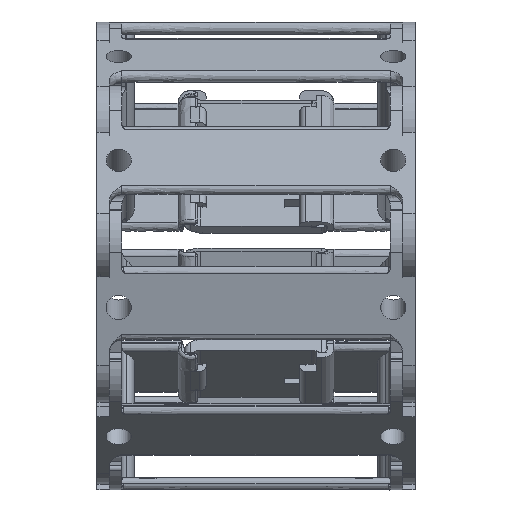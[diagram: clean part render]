
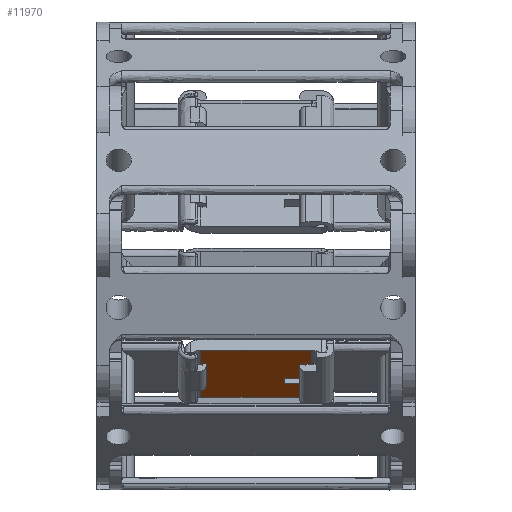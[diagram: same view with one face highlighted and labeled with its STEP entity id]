
A CAD part, front view. The second image highlights one B-rep face of the part: STEP entity #11970.
In plain terms, the highlighted planar face has unit normal (0, -0.628, -0.778) as drawn and (0, -1, 0) by its records, which use the part's own axes.
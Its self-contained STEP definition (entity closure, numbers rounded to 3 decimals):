
#10640=CARTESIAN_POINT('',(-41.33,-0.5,8.5));
#10641=VERTEX_POINT('',#10640);
#10649=CARTESIAN_POINT('',(-41.33,-0.5,12.));
#10650=VERTEX_POINT('',#10649);
#10651=CARTESIAN_POINT('',(-41.33,-0.5,8.5));
#10652=DIRECTION('',(0.0,0.0,1.0));
#10653=VECTOR('',#10652,3.5);
#10654=LINE('',#10651,#10653);
#10655=EDGE_CURVE('',#10641,#10650,#10654,.T.);
#10854=CARTESIAN_POINT('',(-41.,-0.5,8.5));
#10855=VERTEX_POINT('',#10854);
#10862=CARTESIAN_POINT('',(-41.33,-0.5,8.5));
#10863=DIRECTION('',(1.0,0.0,0.0));
#10864=VECTOR('',#10863,0.33);
#10865=LINE('',#10862,#10864);
#10866=EDGE_CURVE('',#10641,#10855,#10865,.T.);
#10880=CARTESIAN_POINT('',(-41.,-0.5,3.5));
#10881=VERTEX_POINT('',#10880);
#10882=CARTESIAN_POINT('',(-41.,-0.5,8.5));
#10883=DIRECTION('',(0.0,0.0,-1.0));
#10884=VECTOR('',#10883,5.);
#10885=LINE('',#10882,#10884);
#10886=EDGE_CURVE('',#10855,#10881,#10885,.T.);
#10920=CARTESIAN_POINT('',(-41.33,-0.5,3.5));
#10921=VERTEX_POINT('',#10920);
#10929=CARTESIAN_POINT('',(-41.,-0.5,3.5));
#10930=DIRECTION('',(-1.0,0.0,0.0));
#10931=VECTOR('',#10930,0.33);
#10932=LINE('',#10929,#10931);
#10933=EDGE_CURVE('',#10881,#10921,#10932,.T.);
#11058=CARTESIAN_POINT('',(-23.658,-0.5,0.0));
#11059=VERTEX_POINT('',#11058);
#11060=CARTESIAN_POINT('',(-23.658,-0.5,3.5));
#11061=VERTEX_POINT('',#11060);
#11062=CARTESIAN_POINT('',(-23.658,-0.5,0.0));
#11063=DIRECTION('',(0.0,0.0,1.0));
#11064=VECTOR('',#11063,3.5);
#11065=LINE('',#11062,#11064);
#11066=EDGE_CURVE('',#11059,#11061,#11065,.T.);
#11138=CARTESIAN_POINT('',(-41.33,-0.5,0.0));
#11139=VERTEX_POINT('',#11138);
#11140=CARTESIAN_POINT('',(-23.658,-0.5,0.0));
#11141=DIRECTION('',(-1.0,0.0,0.0));
#11142=VECTOR('',#11141,17.672);
#11143=LINE('',#11140,#11142);
#11144=EDGE_CURVE('',#11059,#11139,#11143,.T.);
#11262=CARTESIAN_POINT('',(-24.5,-0.5,8.5));
#11263=VERTEX_POINT('',#11262);
#11270=CARTESIAN_POINT('',(-24.5,-0.5,4.8));
#11271=VERTEX_POINT('',#11270);
#11272=CARTESIAN_POINT('',(-24.5,-0.5,4.8));
#11273=DIRECTION('',(0.0,0.0,1.0));
#11274=VECTOR('',#11273,3.7);
#11275=LINE('',#11272,#11274);
#11276=EDGE_CURVE('',#11271,#11263,#11275,.T.);
#11681=CARTESIAN_POINT('',(-23.658,-0.5,8.5));
#11682=VERTEX_POINT('',#11681);
#11683=CARTESIAN_POINT('',(-24.5,-0.5,8.5));
#11684=DIRECTION('',(1.0,0.0,0.0));
#11685=VECTOR('',#11684,0.842);
#11686=LINE('',#11683,#11685);
#11687=EDGE_CURVE('',#11263,#11682,#11686,.T.);
#11711=CARTESIAN_POINT('',(-28.,-0.5,4.8));
#11712=VERTEX_POINT('',#11711);
#11713=CARTESIAN_POINT('',(-28.,-0.5,4.8));
#11714=DIRECTION('',(1.0,0.0,0.0));
#11715=VECTOR('',#11714,3.5);
#11716=LINE('',#11713,#11715);
#11717=EDGE_CURVE('',#11712,#11271,#11716,.T.);
#11745=CARTESIAN_POINT('',(-28.,-0.5,3.5));
#11746=VERTEX_POINT('',#11745);
#11753=CARTESIAN_POINT('',(-23.658,-0.5,3.5));
#11754=DIRECTION('',(-1.0,0.0,0.0));
#11755=VECTOR('',#11754,4.342);
#11756=LINE('',#11753,#11755);
#11757=EDGE_CURVE('',#11061,#11746,#11756,.T.);
#11768=CARTESIAN_POINT('',(-28.,-0.5,3.5));
#11769=DIRECTION('',(0.0,0.0,1.0));
#11770=VECTOR('',#11769,1.3);
#11771=LINE('',#11768,#11770);
#11772=EDGE_CURVE('',#11746,#11712,#11771,.T.);
#11787=CARTESIAN_POINT('',(-23.658,-0.5,12.));
#11788=VERTEX_POINT('',#11787);
#11796=CARTESIAN_POINT('',(-23.658,-0.5,8.5));
#11797=DIRECTION('',(0.0,0.0,1.0));
#11798=VECTOR('',#11797,3.5);
#11799=LINE('',#11796,#11798);
#11800=EDGE_CURVE('',#11682,#11788,#11799,.T.);
#11920=CARTESIAN_POINT('',(-23.658,-0.5,12.));
#11921=DIRECTION('',(-1.0,0.0,0.0));
#11922=VECTOR('',#11921,17.672);
#11923=LINE('',#11920,#11922);
#11924=EDGE_CURVE('',#11788,#10650,#11923,.T.);
#11944=CARTESIAN_POINT('',(-23.658,-0.5,0.0));
#11945=DIRECTION('',(0.0,-1.0,0.0));
#11946=DIRECTION('',(0.0,0.0,-1.0));
#11947=AXIS2_PLACEMENT_3D('',#11944,#11945,#11946);
#11948=PLANE('',#11947);
#11949=ORIENTED_EDGE('',*,*,#10933,.T.);
#11950=CARTESIAN_POINT('',(-41.33,-0.5,0.0));
#11951=DIRECTION('',(0.0,0.0,1.0));
#11952=VECTOR('',#11951,3.5);
#11953=LINE('',#11950,#11952);
#11954=EDGE_CURVE('',#11139,#10921,#11953,.T.);
#11955=ORIENTED_EDGE('',*,*,#11954,.F.);
#11956=ORIENTED_EDGE('',*,*,#11144,.F.);
#11957=ORIENTED_EDGE('',*,*,#11066,.T.);
#11958=ORIENTED_EDGE('',*,*,#11757,.T.);
#11959=ORIENTED_EDGE('',*,*,#11772,.T.);
#11960=ORIENTED_EDGE('',*,*,#11717,.T.);
#11961=ORIENTED_EDGE('',*,*,#11276,.T.);
#11962=ORIENTED_EDGE('',*,*,#11687,.T.);
#11963=ORIENTED_EDGE('',*,*,#11800,.T.);
#11964=ORIENTED_EDGE('',*,*,#11924,.T.);
#11965=ORIENTED_EDGE('',*,*,#10655,.F.);
#11966=ORIENTED_EDGE('',*,*,#10866,.T.);
#11967=ORIENTED_EDGE('',*,*,#10886,.T.);
#11968=EDGE_LOOP('',(#11949,#11955,#11956,#11957,#11958,#11959,#11960,#11961,#11962,#11963,#11964,#11965,#11966,#11967));
#11969=FACE_OUTER_BOUND('',#11968,.T.);
#11970=ADVANCED_FACE('',(#11969),#11948,.T.);
